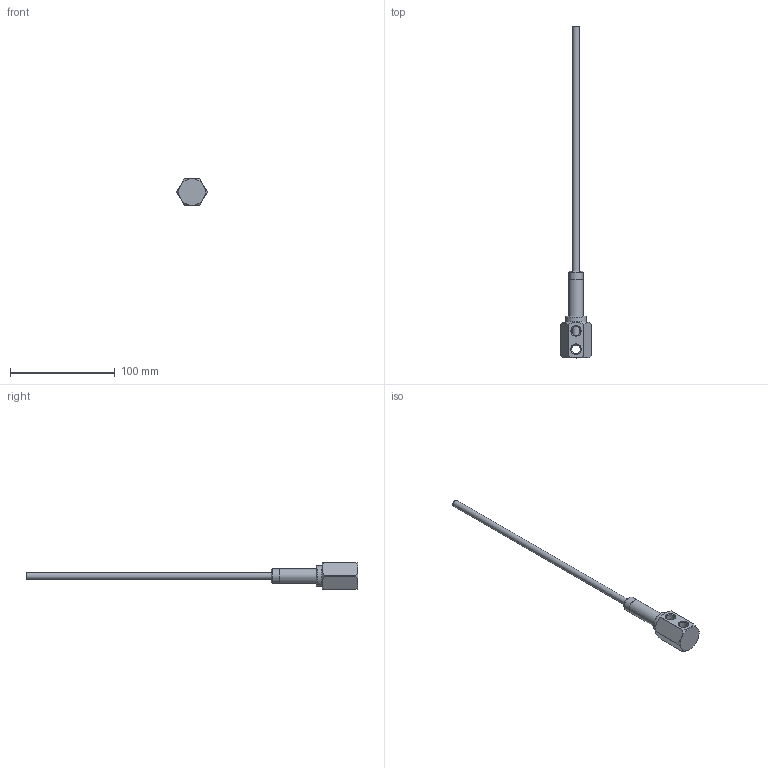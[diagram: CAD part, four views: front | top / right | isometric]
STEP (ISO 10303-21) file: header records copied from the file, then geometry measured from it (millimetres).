
FILE_DESCRIPTION(/* description */ (''),/* implementation_level */ '2;1');
FILE_NAME(/* name */ 'C:/Users/drich/Desktop/146N v1.step',/* time_stamp */ '2020-01-15T19:40:25-06:00',/* author */ (''),/* organization */ (''),/* preprocessor_version */ 'ST-DEVELOPER v18',/* originating_system */ 'Autodesk Translation Framework v8.12.0.6',/* authorisation */ '');
FILE_SCHEMA (('AUTOMOTIVE_DESIGN { 1 0 10303 214 3 1 1 }'));
Length unit declared in the file: inch
Products named in the file (4): 146N; 146H; SSPN14-2; 250T-12
Assembly tree (3 placements, depth 2):
  146N
    146H
    SSPN14-2
    250T-12
Bounding box: 29.26 x 317.02 x 25.4 mm (x, y, z)
Volume: 25263.6 mm3; surface area: 19663.8 mm2
Topology: 3 solids, 3 shells, 48 faces, 129 edges, 89 vertices
Faces by surface type: cylinder 18, plane 15, cone 13, torus 2
Full cylindrical faces by diameter (mm): 4.318 x1, 5.474 x1, 6.243 x1, 8.707 x3, 9.246 x1, 11.668 x1, 13.665 x2, 13.716 x1, 19.812 x1
Entity records: 1765 total; most frequent: CARTESIAN_POINT 396, DIRECTION 287, ORIENTED_EDGE 258, EDGE_CURVE 129, AXIS2_PLACEMENT_3D 126, VERTEX_POINT 89, CIRCLE 71, EDGE_LOOP 60
